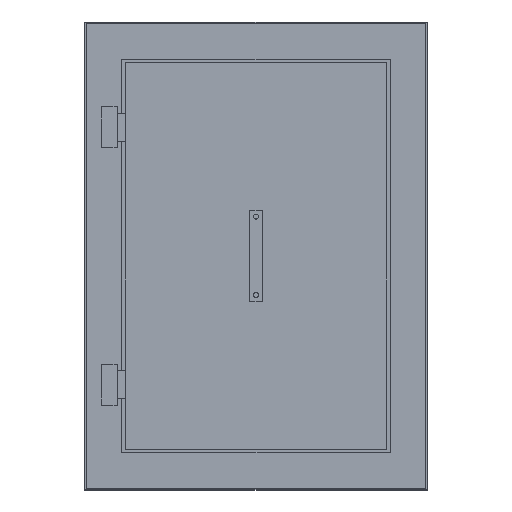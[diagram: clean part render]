
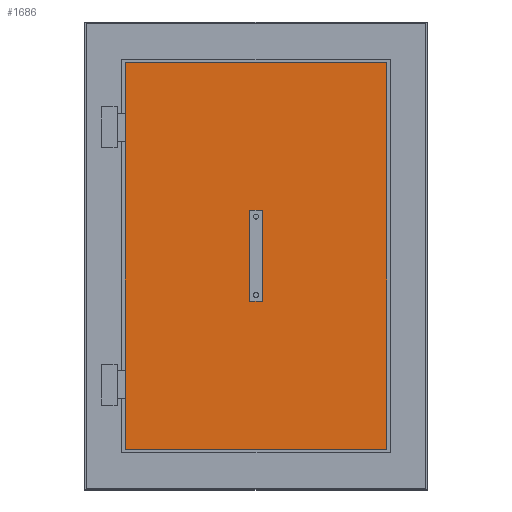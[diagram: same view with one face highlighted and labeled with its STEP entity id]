
A CAD part, top view. The second image highlights one B-rep face of the part: STEP entity #1686.
In plain terms, the highlighted planar face has unit normal (0, 0, 1).
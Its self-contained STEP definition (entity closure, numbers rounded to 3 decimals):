
#460=DIRECTION('',(0.,-1.,0.));
#461=VECTOR('',#460,1232.);
#462=CARTESIAN_POINT('',(-416.,616.,-41.));
#463=LINE('',#462,#461);
#464=DIRECTION('',(-1.,0.,0.));
#465=VECTOR('',#464,832.);
#466=CARTESIAN_POINT('',(416.,616.,-41.));
#467=LINE('',#466,#465);
#468=DIRECTION('',(0.,1.,0.));
#469=VECTOR('',#468,1232.);
#470=CARTESIAN_POINT('',(416.,-616.,-41.));
#471=LINE('',#470,#469);
#472=DIRECTION('',(1.,0.,0.));
#473=VECTOR('',#472,832.);
#474=CARTESIAN_POINT('',(-416.,-616.,-41.));
#475=LINE('',#474,#473);
#476=CARTESIAN_POINT('',(0.,0.,-41.));
#477=DIRECTION('',(0.,0.,1.));
#478=DIRECTION('',(1.,0.,0.));
#479=AXIS2_PLACEMENT_3D('',#476,#477,#478);
#481=CARTESIAN_POINT('',(0.,0.,-41.));
#482=DIRECTION('',(0.,0.,1.));
#483=DIRECTION('',(-1.,0.,0.));
#484=AXIS2_PLACEMENT_3D('',#481,#482,#483);
#886=CARTESIAN_POINT('',(-416.,616.,-41.));
#887=CARTESIAN_POINT('',(-416.,-616.,-41.));
#888=VERTEX_POINT('',#886);
#889=VERTEX_POINT('',#887);
#890=CARTESIAN_POINT('',(416.,-616.,-41.));
#891=VERTEX_POINT('',#890);
#892=CARTESIAN_POINT('',(416.,616.,-41.));
#893=VERTEX_POINT('',#892);
#970=CARTESIAN_POINT('',(20.,0.,-41.));
#971=CARTESIAN_POINT('',(-20.,0.,-41.));
#972=VERTEX_POINT('',#970);
#973=VERTEX_POINT('',#971);
#1667=CARTESIAN_POINT('',(0.,0.,-41.));
#1668=DIRECTION('',(0.,0.,1.));
#1669=DIRECTION('',(1.,0.,0.));
#1670=AXIS2_PLACEMENT_3D('',#1667,#1668,#1669);
#1671=PLANE('',#1670);
#1673=ORIENTED_EDGE('',*,*,#1672,.F.);
#1675=ORIENTED_EDGE('',*,*,#1674,.F.);
#1677=ORIENTED_EDGE('',*,*,#1676,.F.);
#1679=ORIENTED_EDGE('',*,*,#1678,.F.);
#1680=EDGE_LOOP('',(#1673,#1675,#1677,#1679));
#1681=FACE_OUTER_BOUND('',#1680,.F.);
#1682=ORIENTED_EDGE('',*,*,#1242,.T.);
#1683=ORIENTED_EDGE('',*,*,#1649,.T.);
#1684=EDGE_LOOP('',(#1682,#1683));
#1685=FACE_BOUND('',#1684,.F.);
#480=CIRCLE('',#479,20.);
#485=CIRCLE('',#484,20.);
#1242=EDGE_CURVE('',#972,#973,#480,.T.);
#1649=EDGE_CURVE('',#973,#972,#485,.T.);
#1672=EDGE_CURVE('',#888,#889,#463,.T.);
#1674=EDGE_CURVE('',#893,#888,#467,.T.);
#1676=EDGE_CURVE('',#891,#893,#471,.T.);
#1678=EDGE_CURVE('',#889,#891,#475,.T.);
#1686=ADVANCED_FACE('',(#1681,#1685),#1671,.T.);
